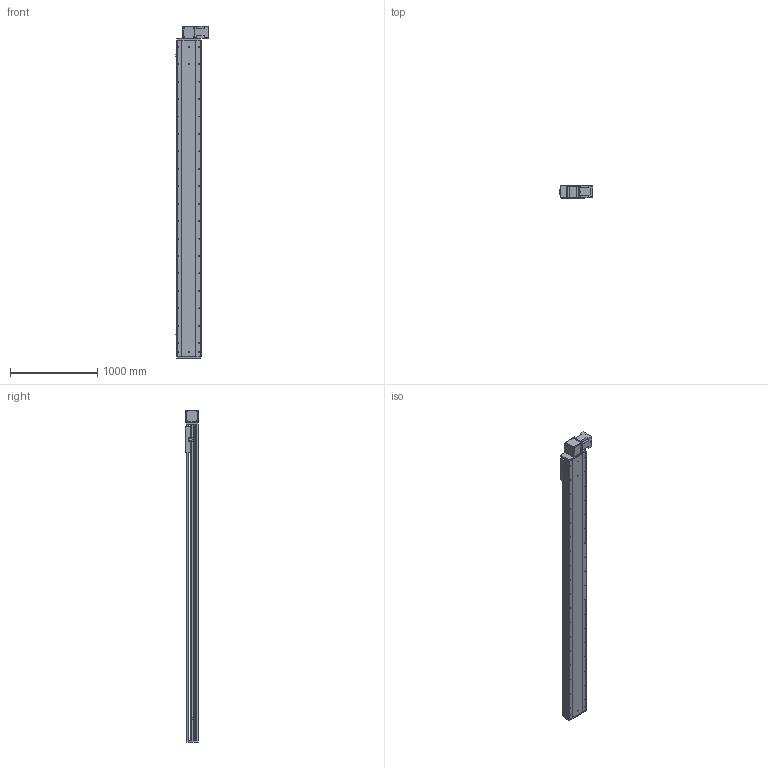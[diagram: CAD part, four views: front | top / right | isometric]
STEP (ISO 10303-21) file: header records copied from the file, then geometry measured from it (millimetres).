
FILE_DESCRIPTION (( 'STEP AP214' ), '1' );
FILE_NAME ('RTB28S-XX-3200-BL-M100-XX-C4.STEP', '2025-12-22T02:37:50', ( '' ), ( '' ), 'SwSTEP 2.0', 'SolidWorks 2018', '' );
FILE_SCHEMA (( 'AUTOMOTIVE_DESIGN' ));
Length unit declared in the file: millimetre
Products named in the file (4): RTB28S-XX-3200-BL-M100-XX-C4; RTB28S-GY-011^RTB28S-XX-XX-BL-M100-XX-C4; RTB28S-GY-004^RTB28S-XX-XX-BL-M100-XX-C4; RTB28S-GY-008^RTB28S-XX-XX-BL-M100-XX-C4
Assembly tree (3 placements, depth 2):
  RTB28S-XX-3200-BL-M100-XX-C4
    RTB28S-GY-011^RTB28S-XX-XX-BL-M100-XX-C4
    RTB28S-GY-004^RTB28S-XX-XX-BL-M100-XX-C4
    RTB28S-GY-008^RTB28S-XX-XX-BL-M100-XX-C4
Bounding box: 380.7 x 145 x 3807 mm (x, y, z)
Volume: 64257682.8 mm3; surface area: 5988346.4 mm2
Topology: 3 solids, 4 shells, 898 faces, 2418 edges, 1548 vertices
Faces by surface type: cylinder 447, plane 367, cone 80, torus 4
Entity records: 34859 total; most frequent: CARTESIAN_POINT 6652, DIRECTION 5148, ORIENTED_EDGE 4772, EDGE_CURVE 2386, AXIS2_PLACEMENT_3D 1904, VERTEX_POINT 1548, VECTOR 1340, LINE 1340
